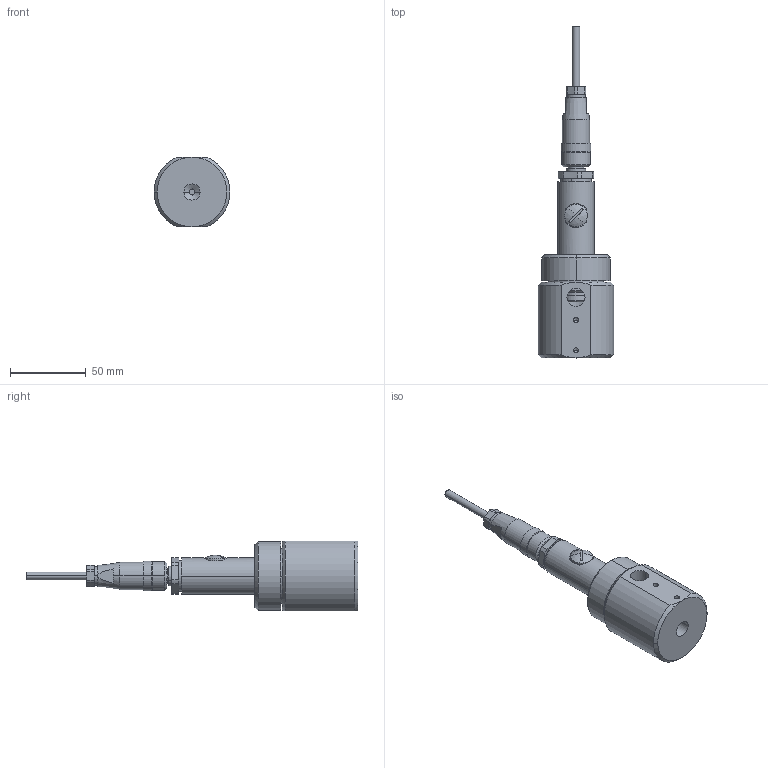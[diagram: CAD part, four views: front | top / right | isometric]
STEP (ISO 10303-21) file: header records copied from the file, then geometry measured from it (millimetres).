
FILE_DESCRIPTION (( 'STEP AP203' ), '1' );
FILE_NAME ('2582.TD.1000_____d1__001.STEP', '2024-07-03T11:27:56', ( '' ), ( '' ), 'SwSTEP 2.0', 'SolidWorks 2023', '' );
FILE_SCHEMA (( 'CONFIG_CONTROL_DESIGN' ));
Length unit declared in the file: millimetre
Products named in the file (10): 09078=C=1010; 148983,01430_For Routing; 09078=C=2100; 09078=C=1030; 148984,00431; 09078=C=1020; 2582.TD.1000_____d1__001; 09078=C=2000; 8000645; 359072,00120
Assembly tree (9 placements, depth 2):
  2582.TD.1000_____d1__001
    359072,00120
    09078=C=1010
    09078=C=1020
    09078=C=1030
    09078=C=2000
    09078=C=2100
    148984,00431
    8000645
    148983,01430_For Routing
Bounding box: 50 x 219.2 x 46 mm (x, y, z)
Volume: 135413.9 mm3; surface area: 46080.4 mm2
Topology: 13 solids, 13 shells, 337 faces, 737 edges, 461 vertices
Faces by surface type: cylinder 162, plane 95, cone 62, torus 12, sphere 6
Entity records: 10601 total; most frequent: CARTESIAN_POINT 1923, DIRECTION 1780, ORIENTED_EDGE 1434, AXIS2_PLACEMENT_3D 749, EDGE_CURVE 717, VERTEX_POINT 453, EDGE_LOOP 402, CIRCLE 400
